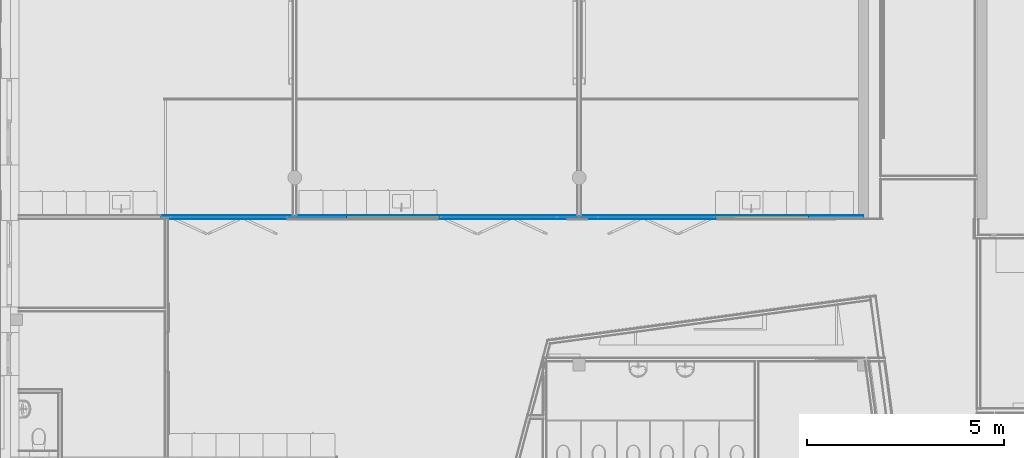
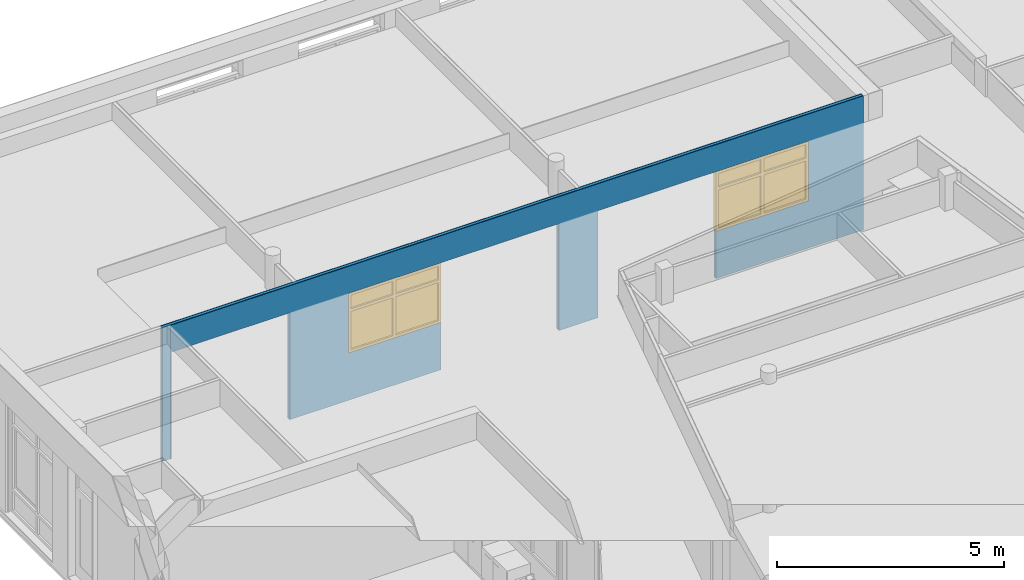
# One storey, part 36 of 167: 3 building element parts, 2 windows, 5 openings, 1 element without a shape of its own.
"""IFC2X3 building model written with IfcOpenShell, lengths in millimetres."""

from ifc_helpers import new_model, entity, si_unit, converted_unit, derived_unit, money_unit, direction, frame, origin_with_axes, place, context, subcontext, project, spatial, open_shell, faceted_brep, surface_model, source, transform, mapped, material, type_object, type_shapes, element, fill, aggregate, save


model = new_model("IFC2X3")

# Units and contexts
model_context = context("Model", 3, precision=0.01, world=origin_with_axes(), true_north=direction((0.0, 1.0)))
plan_context = context("Plan", 3, precision=0.01, world=origin_with_axes(), true_north=direction((0.0, 1.0)))
body_context = subcontext(model_context, "Body", "Model", "MODEL_VIEW")
ifc_project = project(units=[si_unit("LENGTHUNIT", "METRE", prefix="MILLI"), si_unit("AREAUNIT", "SQUARE_METRE"), si_unit("VOLUMEUNIT", "CUBIC_METRE"), converted_unit("PLANEANGLEUNIT", "DEGREE", entity("IfcPlaneAngleMeasure", 0.0174532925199), si_unit("PLANEANGLEUNIT", "RADIAN"), dimensions=[0, 0, 0, 0, 0, 0, 0]), si_unit("SOLIDANGLEUNIT", "STERADIAN"), money_unit("EUR"), converted_unit("TIMEUNIT", "Year", entity("IfcTimeMeasure", 31556926.0), si_unit("TIMEUNIT", "SECOND"), dimensions=[0, 0, 1, 0, 0, 0, 0]), si_unit("MASSUNIT", "GRAM", prefix="KILO"), si_unit("THERMODYNAMICTEMPERATUREUNIT", "DEGREE_CELSIUS"), si_unit("LUMINOUSINTENSITYUNIT", "LUMEN"), si_unit("ENERGYUNIT", "JOULE", prefix="MEGA"), derived_unit("THERMALCONDUCTANCEUNIT", [(si_unit("POWERUNIT", "WATT"), 1), (si_unit("LENGTHUNIT", "METRE"), -1), (si_unit("THERMODYNAMICTEMPERATUREUNIT", "KELVIN"), -1)]), derived_unit("SPECIFICHEATCAPACITYUNIT", [(si_unit("ENERGYUNIT", "JOULE"), 1), (si_unit("MASSUNIT", "GRAM", prefix="KILO"), -1), (si_unit("THERMODYNAMICTEMPERATUREUNIT", "KELVIN"), -1)]), derived_unit("MASSDENSITYUNIT", [(si_unit("MASSUNIT", "GRAM", prefix="KILO"), 1), (si_unit("VOLUMEUNIT", "CUBIC_METRE"), -1)])], contexts=[model_context, plan_context])

# Site, building, storey
site_placement = place(None, origin_with_axes())
site = spatial("IfcSite", under=ifc_project, at=site_placement, Name="Site", CompositionType="ELEMENT")
building_placement = place(site_placement, origin_with_axes())
building = spatial("IfcBuilding", under=site, at=building_placement, Name="Naam gebouw", CompositionType="ELEMENT")
storey_placement = place(building_placement, origin_with_axes())
storey = spatial("IfcBuildingStorey", under=building, at=storey_placement, Name="Begane grond", CompositionType="ELEMENT", Elevation=0.0)

# Window
window_style = type_object("IfcWindowStyle", Name="R2 bl ol 24", ConstructionType="NOTDEFINED", OperationType="USERDEFINED", ParameterTakesPrecedence=False, Sizeable=False)
wall_placement = place(storey_placement, frame((3950.0, 42200.0, -100.0), z_axis=(0.0, 0.0, 1.0), x_axis=(1.0, 0.0, 0.0)))
opening_2_placement = place(wall_placement, frame((15080.2814686, 0.0, 1300.0), z_axis=(0.0, 0.0, 1.0), x_axis=(1.0, 0.0, 0.0)))
window_1_placement = place(opening_2_placement, frame((1175.0, 0.0, 0.0), z_axis=(0.0, 0.0, 1.0), x_axis=(-1.0, 0.0, 0.0)))
window_1 = element("IfcWindow", 1, at=window_1_placement, inside=storey, type_object=window_style, Name="31_Raam_Hi-53", ObjectType="WINDOW", OverallHeight=1600.0, OverallWidth=2350.0, context=body_context, shape_type="SurfaceModel", body=[
    faceted_brep([(2283.0, -64.0, 1092.4), (2283.0, -64.0, 1167.4), (2283.0, 50.0, 1167.4), (2283.0, 50.0, 1092.4), (2283.0, -64.0, 67.0), (2350.0, -64.0, 67.0), (2350.0, -64.0, 1533.0), (2283.0, -64.0, 1533.0), (2283.0, 50.0, 1533.0), (2350.0, 50.0, 1533.0), (2350.0, 50.0, 67.0), (2283.0, 50.0, 67.0)], [[[0, 1, 2, 3]], [[0, 4, 5, 6, 7, 1]], [[1, 7, 8, 2]], [[3, 2, 8, 9, 10, 11]], [[4, 0, 3, 11]], [[5, 4, 11, 10]], [[6, 5, 10, 9]], [[7, 6, 9, 8]]]),
    faceted_brep([(67.0, -64.0, 67.0), (0.0, -64.0, 67.0), (0.0, 50.0, 67.0), (67.0, 50.0, 67.0), (67.0, -64.0, 1092.4), (67.0, -64.0, 1167.4), (67.0, -64.0, 1533.0), (0.0, -64.0, 1533.0), (0.0, 50.0, 1533.0), (67.0, 50.0, 1533.0), (67.0, 50.0, 1167.4), (67.0, 50.0, 1092.4)], [[[0, 1, 2, 3]], [[0, 4, 5, 6, 7, 1]], [[1, 7, 8, 2]], [[3, 2, 8, 9, 10, 11]], [[4, 0, 3, 11]], [[5, 4, 11, 10]], [[6, 5, 10, 9]], [[7, 6, 9, 8]]]),
    faceted_brep([(1212.5, -64.0, 1167.4), (1212.5, -64.0, 1092.4), (1212.5, 50.0, 1092.4), (1212.5, 50.0, 1167.4), (1212.5, -64.0, 1533.0), (1137.5, -64.0, 1533.0), (1137.5, -64.0, 1167.4), (1137.5, -64.0, 1092.4), (1137.5, -64.0, 67.0), (1212.5, -64.0, 67.0), (1212.5, 50.0, 67.0), (1137.5, 50.0, 67.0), (1137.5, 50.0, 1092.4), (1137.5, 50.0, 1167.4), (1137.5, 50.0, 1533.0), (1212.5, 50.0, 1533.0)], [[[0, 1, 2, 3]], [[0, 4, 5, 6, 7, 8, 9, 1]], [[1, 9, 10, 2]], [[3, 2, 10, 11, 12, 13, 14, 15]], [[4, 0, 3, 15]], [[5, 4, 15, 14]], [[6, 5, 14, 13]], [[7, 6, 13, 12]], [[8, 7, 12, 11]], [[9, 8, 11, 10]]]),
    faceted_brep([(67.0, -64.0, 1092.4), (67.0, -64.0, 1167.4), (67.0, 50.0, 1167.4), (67.0, 50.0, 1092.4), (1137.5, -64.0, 1092.4), (1137.5, -64.0, 1167.4), (1137.5, 50.0, 1167.4), (1137.5, 50.0, 1092.4)], [[[0, 1, 2, 3]], [[0, 4, 5, 1]], [[1, 5, 6, 2]], [[3, 2, 6, 7]], [[4, 0, 3, 7]], [[5, 4, 7, 6]]]),
    faceted_brep([(2283.0, -64.0, 1167.4), (2283.0, -64.0, 1092.4), (2283.0, 50.0, 1092.4), (2283.0, 50.0, 1167.4), (1212.5, -64.0, 1167.4), (1212.5, -64.0, 1092.4), (1212.5, 50.0, 1092.4), (1212.5, 50.0, 1167.4)], [[[0, 1, 2, 3]], [[0, 4, 5, 1]], [[1, 5, 6, 2]], [[3, 2, 6, 7]], [[4, 0, 3, 7]], [[5, 4, 7, 6]]]),
    faceted_brep([(2283.0, -64.0, 67.0), (2350.0, -64.0, 67.0), (2350.0, 50.0, 67.0), (2283.0, 50.0, 67.0), (1212.5, -64.0, 67.0), (1137.5, -64.0, 67.0), (67.0, -64.0, 67.0), (0.0, -64.0, 67.0), (0.0, -64.0, 0.0), (2350.0, -64.0, 0.0), (2350.0, 50.0, 0.0), (0.0, 50.0, 0.0), (0.0, 50.0, 67.0), (67.0, 50.0, 67.0), (1137.5, 50.0, 67.0), (1212.5, 50.0, 67.0)], [[[0, 1, 2, 3]], [[0, 4, 5, 6, 7, 8, 9, 1]], [[1, 9, 10, 2]], [[3, 2, 10, 11, 12, 13, 14, 15]], [[4, 0, 3, 15]], [[5, 4, 15, 14]], [[6, 5, 14, 13]], [[7, 6, 13, 12]], [[8, 7, 12, 11]], [[9, 8, 11, 10]]]),
    faceted_brep([(1212.5, -64.0, 1533.0), (1137.5, -64.0, 1533.0), (1137.5, 50.0, 1533.0), (1212.5, 50.0, 1533.0), (2283.0, -64.0, 1533.0), (2350.0, -64.0, 1533.0), (2350.0, -64.0, 1600.0), (0.0, -64.0, 1600.0), (0.0, -64.0, 1533.0), (67.0, -64.0, 1533.0), (67.0, 50.0, 1533.0), (0.0, 50.0, 1533.0), (0.0, 50.0, 1600.0), (2350.0, 50.0, 1600.0), (2350.0, 50.0, 1533.0), (2283.0, 50.0, 1533.0)], [[[0, 1, 2, 3]], [[0, 4, 5, 6, 7, 8, 9, 1]], [[1, 9, 10, 2]], [[3, 2, 10, 11, 12, 13, 14, 15]], [[4, 0, 3, 15]], [[5, 4, 15, 14]], [[6, 5, 14, 13]], [[7, 6, 13, 12]], [[8, 7, 12, 11]], [[9, 8, 11, 10]]]),
    surface_model("IfcShellBasedSurfaceModel", [(2283.0, -14.0, 1167.4), (2283.0, -14.0, 1533.0), (1212.5, -14.0, 1533.0), (1212.5, -14.0, 1167.4)], [open_shell([[[0, 1, 2, 3]]])]),
    surface_model("IfcShellBasedSurfaceModel", [(2283.0, 6.0, 1167.4), (1212.5, 6.0, 1167.4), (1212.5, 6.0, 1533.0), (2283.0, 6.0, 1533.0)], [open_shell([[[0, 1, 2, 3]]])]),
    surface_model("IfcShellBasedSurfaceModel", [(1137.5, -14.0, 1167.4), (1137.5, -14.0, 1533.0), (67.0, -14.0, 1533.0), (67.0, -14.0, 1167.4)], [open_shell([[[0, 1, 2, 3]]])]),
    surface_model("IfcShellBasedSurfaceModel", [(1137.5, 6.0, 1167.4), (67.0, 6.0, 1167.4), (67.0, 6.0, 1533.0), (1137.5, 6.0, 1533.0)], [open_shell([[[0, 1, 2, 3]]])]),
    surface_model("IfcShellBasedSurfaceModel", [(2283.0, -14.0, 67.0), (2283.0, -14.0, 1092.4), (1212.5, -14.0, 1092.4), (1212.5, -14.0, 67.0)], [open_shell([[[0, 1, 2, 3]]])]),
    surface_model("IfcShellBasedSurfaceModel", [(2283.0, 6.0, 67.0), (1212.5, 6.0, 67.0), (1212.5, 6.0, 1092.4), (2283.0, 6.0, 1092.4)], [open_shell([[[0, 1, 2, 3]]])]),
    surface_model("IfcShellBasedSurfaceModel", [(1137.5, -14.0, 67.0), (1137.5, -14.0, 1092.4), (67.0, -14.0, 1092.4), (67.0, -14.0, 67.0)], [open_shell([[[0, 1, 2, 3]]])]),
    surface_model("IfcShellBasedSurfaceModel", [(1137.5, 6.0, 67.0), (67.0, 6.0, 67.0), (67.0, 6.0, 1092.4), (1137.5, 6.0, 1092.4)], [open_shell([[[0, 1, 2, 3]]])]),
])

shared_shape = source(origin_with_axes(), body_context, "Body", "SurfaceModel", [
    faceted_brep([(-1108.0, -114.0, 1092.4), (-1108.0, 0.0, 1092.4), (-1108.0, 0.0, 1167.4), (-1108.0, -114.0, 1167.4), (-1108.0, -114.0, 67.0), (-1108.0, 0.0, 67.0), (-1175.0, 0.0, 67.0), (-1175.0, 0.0, 1533.0), (-1108.0, 0.0, 1533.0), (-1108.0, -114.0, 1533.0), (-1175.0, -114.0, 1533.0), (-1175.0, -114.0, 67.0)], [[[0, 1, 2, 3]], [[4, 5, 1, 0]], [[1, 5, 6, 7, 8, 2]], [[3, 2, 8, 9]], [[0, 3, 9, 10, 11, 4]], [[11, 6, 5, 4]], [[10, 7, 6, 11]], [[9, 8, 7, 10]]]),
    faceted_brep([(1108.0, -114.0, 67.0), (1108.0, 0.0, 67.0), (1175.0, 0.0, 67.0), (1175.0, -114.0, 67.0), (1108.0, -114.0, 1092.4), (1108.0, 0.0, 1092.4), (1108.0, 0.0, 1167.4), (1108.0, 0.0, 1533.0), (1175.0, 0.0, 1533.0), (1175.0, -114.0, 1533.0), (1108.0, -114.0, 1533.0), (1108.0, -114.0, 1167.4)], [[[0, 1, 2, 3]], [[4, 5, 1, 0]], [[1, 5, 6, 7, 8, 2]], [[3, 2, 8, 9]], [[0, 3, 9, 10, 11, 4]], [[11, 6, 5, 4]], [[10, 7, 6, 11]], [[9, 8, 7, 10]]]),
    faceted_brep([(-37.5, -114.0, 1167.4), (-37.5, 0.0, 1167.4), (-37.5, 0.0, 1092.4), (-37.5, -114.0, 1092.4), (-37.5, -114.0, 1533.0), (-37.5, 0.0, 1533.0), (37.5, 0.0, 1533.0), (37.5, 0.0, 1167.4), (37.5, 0.0, 1092.4), (37.5, 0.0, 67.0), (-37.5, 0.0, 67.0), (-37.5, -114.0, 67.0), (37.5, -114.0, 67.0), (37.5, -114.0, 1092.4), (37.5, -114.0, 1167.4), (37.5, -114.0, 1533.0)], [[[0, 1, 2, 3]], [[4, 5, 1, 0]], [[1, 5, 6, 7, 8, 9, 10, 2]], [[3, 2, 10, 11]], [[0, 3, 11, 12, 13, 14, 15, 4]], [[15, 6, 5, 4]], [[14, 7, 6, 15]], [[13, 8, 7, 14]], [[12, 9, 8, 13]], [[11, 10, 9, 12]]]),
    faceted_brep([(1108.0, -114.0, 1092.4), (1108.0, 0.0, 1092.4), (1108.0, 0.0, 1167.4), (1108.0, -114.0, 1167.4), (37.5, -114.0, 1092.4), (37.5, 0.0, 1092.4), (37.5, 0.0, 1167.4), (37.5, -114.0, 1167.4)], [[[0, 1, 2, 3]], [[4, 5, 1, 0]], [[1, 5, 6, 2]], [[3, 2, 6, 7]], [[0, 3, 7, 4]], [[7, 6, 5, 4]]]),
    faceted_brep([(-1108.0, -114.0, 1167.4), (-1108.0, 0.0, 1167.4), (-1108.0, 0.0, 1092.4), (-1108.0, -114.0, 1092.4), (-37.5, -114.0, 1167.4), (-37.5, 0.0, 1167.4), (-37.5, 0.0, 1092.4), (-37.5, -114.0, 1092.4)], [[[0, 1, 2, 3]], [[4, 5, 1, 0]], [[1, 5, 6, 2]], [[3, 2, 6, 7]], [[0, 3, 7, 4]], [[7, 6, 5, 4]]]),
    faceted_brep([(-1108.0, -114.0, 67.0), (-1108.0, 0.0, 67.0), (-1175.0, 0.0, 67.0), (-1175.0, -114.0, 67.0), (-37.5, -114.0, 67.0), (-37.5, 0.0, 67.0), (37.5, 0.0, 67.0), (1108.0, 0.0, 67.0), (1175.0, 0.0, 67.0), (1175.0, 0.0, 0.0), (-1175.0, 0.0, 0.0), (-1175.0, -114.0, 0.0), (1175.0, -114.0, 0.0), (1175.0, -114.0, 67.0), (1108.0, -114.0, 67.0), (37.5, -114.0, 67.0)], [[[0, 1, 2, 3]], [[4, 5, 1, 0]], [[1, 5, 6, 7, 8, 9, 10, 2]], [[3, 2, 10, 11]], [[0, 3, 11, 12, 13, 14, 15, 4]], [[15, 6, 5, 4]], [[14, 7, 6, 15]], [[13, 8, 7, 14]], [[12, 9, 8, 13]], [[11, 10, 9, 12]]]),
    faceted_brep([(-37.5, -114.0, 1533.0), (-37.5, 0.0, 1533.0), (37.5, 0.0, 1533.0), (37.5, -114.0, 1533.0), (-1108.0, -114.0, 1533.0), (-1108.0, 0.0, 1533.0), (-1175.0, 0.0, 1533.0), (-1175.0, 0.0, 1600.0), (1175.0, 0.0, 1600.0), (1175.0, 0.0, 1533.0), (1108.0, 0.0, 1533.0), (1108.0, -114.0, 1533.0), (1175.0, -114.0, 1533.0), (1175.0, -114.0, 1600.0), (-1175.0, -114.0, 1600.0), (-1175.0, -114.0, 1533.0)], [[[0, 1, 2, 3]], [[4, 5, 1, 0]], [[1, 5, 6, 7, 8, 9, 10, 2]], [[3, 2, 10, 11]], [[0, 3, 11, 12, 13, 14, 15, 4]], [[15, 6, 5, 4]], [[14, 7, 6, 15]], [[13, 8, 7, 14]], [[12, 9, 8, 13]], [[11, 10, 9, 12]]]),
    surface_model("IfcShellBasedSurfaceModel", [(-1108.0, -64.0, 1167.4), (-37.5, -64.0, 1167.4), (-37.5, -64.0, 1533.0), (-1108.0, -64.0, 1533.0)], [open_shell([[[0, 1, 2, 3]]])]),
    surface_model("IfcShellBasedSurfaceModel", [(-1108.0, -44.0, 1167.4), (-1108.0, -44.0, 1533.0), (-37.5, -44.0, 1533.0), (-37.5, -44.0, 1167.4)], [open_shell([[[0, 1, 2, 3]]])]),
    surface_model("IfcShellBasedSurfaceModel", [(37.5, -64.0, 1167.4), (1108.0, -64.0, 1167.4), (1108.0, -64.0, 1533.0), (37.5, -64.0, 1533.0)], [open_shell([[[0, 1, 2, 3]]])]),
    surface_model("IfcShellBasedSurfaceModel", [(37.5, -44.0, 1167.4), (37.5, -44.0, 1533.0), (1108.0, -44.0, 1533.0), (1108.0, -44.0, 1167.4)], [open_shell([[[0, 1, 2, 3]]])]),
    surface_model("IfcShellBasedSurfaceModel", [(-1108.0, -64.0, 67.0), (-37.5, -64.0, 67.0), (-37.5, -64.0, 1092.4), (-1108.0, -64.0, 1092.4)], [open_shell([[[0, 1, 2, 3]]])]),
    surface_model("IfcShellBasedSurfaceModel", [(-1108.0, -44.0, 67.0), (-1108.0, -44.0, 1092.4), (-37.5, -44.0, 1092.4), (-37.5, -44.0, 67.0)], [open_shell([[[0, 1, 2, 3]]])]),
    surface_model("IfcShellBasedSurfaceModel", [(37.5, -64.0, 67.0), (1108.0, -64.0, 67.0), (1108.0, -64.0, 1092.4), (37.5, -64.0, 1092.4)], [open_shell([[[0, 1, 2, 3]]])]),
    surface_model("IfcShellBasedSurfaceModel", [(37.5, -44.0, 67.0), (37.5, -44.0, 1092.4), (1108.0, -44.0, 1092.4), (1108.0, -44.0, 67.0)], [open_shell([[[0, 1, 2, 3]]])]),
])
type_shapes(window_style, [shared_shape])
opening_1_placement = place(wall_placement, frame((5740.0, 0.0, 1300.0), z_axis=(0.0, 0.0, 1.0), x_axis=(1.0, 0.0, 0.0)))
window_2_placement = place(opening_1_placement, frame((1175.0, 0.0, 0.0), z_axis=(0.0, 0.0, 1.0), x_axis=(-1.0, 0.0, 0.0)))
window_2 = element("IfcWindow", 2, at=window_2_placement, inside=storey, type_object=window_style, Name="31_Raam_Hi-53", ObjectType="WINDOW", OverallHeight=1600.0, OverallWidth=2350.0, context=body_context, shape_type="MappedRepresentation", body=[
    mapped(shared_shape, transform((1175.0, 50.0, 0.0))),
])

# Wall, opening
wall_type = type_object("IfcWallType", Name="_TenW_22_Metalstud 100 enkel gipsvezelplaat 100", PredefinedType="NOTDEFINED")
wall = element("IfcWall", 3, at=wall_placement, inside=storey, type_object=wall_type, Name="22_Wand_Wand-x")
opening_1 = element("IfcOpeningElement", 4, at=opening_1_placement, cuts=wall, Name="31_Raam_Hi-53", context=body_context, shape_type="Brep", body=[
    faceted_brep([(-1175.0, 100.0, 1600.0), (-1175.0, 100.0, 0.0), (-1175.0, -200.0, 0.0), (-1175.0, -200.0, 1600.0), (1175.0, 100.0, 1600.0), (1175.0, 100.0, 0.0), (1175.0, -200.0, 0.0), (1175.0, -200.0, 1600.0)], [[[0, 1, 2, 3]], [[0, 4, 5, 1]], [[1, 5, 6, 2]], [[3, 2, 6, 7]], [[4, 0, 3, 7]], [[5, 4, 7, 6]]]),
])

fill(opening_1, window_2)

# Opening
opening_2 = element("IfcOpeningElement", 5, at=opening_2_placement, cuts=wall, Name="31_Raam_Hi-53", context=body_context, shape_type="Brep", body=[
    faceted_brep([(1175.0, -200.0, 1600.0), (1175.0, -200.0, 0.0), (1175.0, 100.0, 0.0), (1175.0, 100.0, 1600.0), (-1175.0, -200.0, 1600.0), (-1175.0, -200.0, 0.0), (-1175.0, 100.0, 0.0), (-1175.0, 100.0, 1600.0)], [[[0, 1, 2, 3]], [[0, 4, 5, 1]], [[1, 5, 6, 2]], [[3, 2, 6, 7]], [[4, 0, 3, 7]], [[5, 4, 7, 6]]]),
])

fill(opening_2, window_1)

opening_3_placement = place(wall_placement, frame((8415.0, 0.0, 100.0), z_axis=(0.0, 0.0, 1.0), x_axis=(1.0, 0.0, 0.0)))
element("IfcOpeningElement", 6, at=opening_3_placement, cuts=wall, Name="32_Deur_Si-02", context=body_context, shape_type="Brep", body=[
    faceted_brep([(1500.0, -200.0, 2800.0), (1500.0, -200.0, 0.0), (1500.0, 100.0, 0.0), (1500.0, 100.0, 2800.0), (-1500.0, -200.0, 2800.0), (-1500.0, -200.0, 0.0), (-1500.0, 100.0, 0.0), (-1500.0, 100.0, 2800.0)], [[[0, 1, 2, 3]], [[0, 4, 5, 1]], [[1, 5, 6, 2]], [[3, 2, 6, 7]], [[4, 0, 3, 7]], [[5, 4, 7, 6]]]),
])

opening_4_placement = place(wall_placement, frame((12405.2814686, 0.0, 100.0), z_axis=(0.0, 0.0, 1.0), x_axis=(1.0, 0.0, 0.0)))
element("IfcOpeningElement", 7, at=opening_4_placement, cuts=wall, Name="32_Deur_Si-02s", context=body_context, shape_type="Brep", body=[
    faceted_brep([(-1500.0, 100.0, 2800.0), (-1500.0, 100.0, 0.0), (-1500.0, -200.0, 0.0), (-1500.0, -200.0, 2800.0), (1500.0, 100.0, 2800.0), (1500.0, 100.0, 0.0), (1500.0, -200.0, 0.0), (1500.0, -200.0, 2800.0)], [[[0, 1, 2, 3]], [[0, 4, 5, 1]], [[1, 5, 6, 2]], [[3, 2, 6, 7]], [[4, 0, 3, 7]], [[5, 4, 7, 6]]]),
])

opening_5_placement = place(wall_placement, frame((1575.0, 0.0, 100.0), z_axis=(0.0, 0.0, 1.0), x_axis=(1.0, 0.0, 0.0)))
element("IfcOpeningElement", 8, at=opening_5_placement, cuts=wall, Name="32_Deur_Si-01", context=body_context, shape_type="Brep", body=[
    faceted_brep([(1500.0, -200.0, 2800.0), (1500.0, -200.0, 0.0), (1500.0, 100.0, 0.0), (1500.0, 100.0, 2800.0), (-1500.0, -200.0, 2800.0), (-1500.0, -200.0, 0.0), (-1500.0, 100.0, 0.0), (-1500.0, 100.0, 2800.0)], [[[0, 1, 2, 3]], [[0, 4, 5, 1]], [[1, 5, 6, 2]], [[3, 2, 6, 7]], [[4, 0, 3, 7]], [[5, 4, 7, 6]]]),
])

# Building element part
ifc_material_1 = material(Name="Gipsplaat watervast")
building_element_part_1_placement = place(wall_placement, origin_with_axes())
building_element_part_1 = element("IfcBuildingElementPart", 9, at=building_element_part_1_placement, material=ifc_material_1, Name="Gipsplaat watervast", context=body_context, shape_type="Brep", body=[
    faceted_brep([(75.0, 50.0, 2900.0), (75.0, 50.0, 100.0), (75.0, 50.0, 30.0), (-150.0, 50.0, 30.0), (-150.0, 50.0, 3630.0), (3212.5, 50.0, 3630.0), (3212.5, 50.0, 30.0), (3075.0, 50.0, 30.0), (3075.0, 50.0, 100.0), (3075.0, 50.0, 2900.0), (75.0, 37.5, 2900.0), (75.0, 37.5, 100.0), (75.0, 37.5, 30.0), (-150.0, 37.5, 30.0), (-150.0, 37.5, 3630.0), (3212.5, 37.5, 3630.0), (3212.5, 37.5, 30.0), (3075.0, 37.5, 30.0), (3075.0, 37.5, 100.0), (3075.0, 37.5, 2900.0)], [[[0, 1, 2, 3, 4, 5, 6, 7, 8, 9]], [[1, 0, 10, 11]], [[1, 11, 12, 2]], [[12, 13, 3, 2]], [[13, 14, 4, 3]], [[4, 14, 15, 5]], [[6, 5, 15, 16]], [[7, 6, 16, 17]], [[18, 8, 7, 17]], [[9, 8, 18, 19]], [[0, 9, 19, 10]], [[19, 18, 17, 16, 15, 14, 13, 12, 11, 10]]]),
    faceted_brep([(10905.2814686, 50.0, 2900.0), (10905.2814686, 50.0, 100.0), (10905.2814686, 50.0, 30.0), (10487.5, 50.0, 30.0), (10487.5, 50.0, 3630.0), (17650.0, 50.0, 3630.0), (17650.0, 50.0, 30.0), (13905.2814686, 50.0, 30.0), (13905.2814686, 50.0, 100.0), (13905.2814686, 50.0, 1300.0), (16255.2814686, 50.0, 1300.0), (16255.2814686, 50.0, 2900.0), (13905.2814686, 50.0, 2900.0), (10905.2814686, 37.5, 2900.0), (10905.2814686, 37.5, 100.0), (10905.2814686, 37.5, 30.0), (10487.5, 37.5, 30.0), (10487.5, 37.5, 3630.0), (17650.0, 37.5, 3630.0), (17650.0, 37.5, 30.0), (13905.2814686, 37.5, 30.0), (13905.2814686, 37.5, 100.0), (13905.2814686, 37.5, 1300.0), (16255.2814686, 37.5, 1300.0), (16255.2814686, 37.5, 2900.0), (13905.2814686, 37.5, 2900.0)], [[[0, 1, 2, 3, 4, 5, 6, 7, 8, 9, 10, 11, 12]], [[1, 0, 13, 14]], [[1, 14, 15, 2]], [[16, 3, 2, 15]], [[17, 4, 3, 16]], [[18, 5, 4, 17]], [[5, 18, 19, 6]], [[6, 19, 20, 7]], [[21, 8, 7, 20]], [[22, 9, 8, 21]], [[9, 22, 23, 10]], [[10, 23, 24, 11]], [[25, 13, 0, 12, 11, 24]], [[13, 25, 24, 23, 22, 21, 20, 19, 18, 17, 16, 15, 14]]]),
    faceted_brep([(6915.0, 37.5, 1300.0), (6915.0, 50.0, 1300.0), (4565.0, 50.0, 1300.0), (4565.0, 37.5, 1300.0), (6915.0, 50.0, 100.0), (6915.0, 37.5, 100.0), (9915.0, 50.0, 2900.0), (6915.0, 50.0, 2900.0), (4565.0, 50.0, 2900.0), (6915.0, 50.0, 30.0), (3287.5, 50.0, 30.0), (3287.5, 50.0, 3630.0), (10412.5, 50.0, 3630.0), (10412.5, 50.0, 30.0), (9915.0, 50.0, 30.0), (9915.0, 50.0, 100.0), (4565.0, 37.5, 2900.0), (9915.0, 37.5, 2900.0), (9915.0, 37.5, 100.0), (9915.0, 37.5, 30.0), (10412.5, 37.5, 30.0), (10412.5, 37.5, 3630.0), (3287.5, 37.5, 3630.0), (3287.5, 37.5, 30.0), (6915.0, 37.5, 30.0), (6915.0, 37.5, 2900.0)], [[[0, 1, 2, 3]], [[4, 1, 0, 5]], [[6, 7, 8, 2, 1, 4, 9, 10, 11, 12, 13, 14, 15]], [[8, 16, 3, 2]], [[17, 18, 19, 20, 21, 22, 23, 24, 5, 0, 3, 16, 25]], [[4, 5, 24, 9]], [[7, 6, 17, 25, 16, 8]], [[23, 10, 9, 24]], [[22, 11, 10, 23]], [[21, 12, 11, 22]], [[12, 21, 20, 13]], [[13, 20, 19, 14]], [[18, 15, 14, 19]], [[6, 15, 18, 17]]]),
])

ifc_material_2 = material(Name="Isolatie - Steenwol zacht")
building_element_part_2_placement = place(wall_placement, origin_with_axes())
building_element_part_2 = element("IfcBuildingElementPart", 10, at=building_element_part_2_placement, material=ifc_material_2, Name="Isolatie - Steenwol zacht", context=body_context, shape_type="Brep", body=[
    faceted_brep([(75.0, 37.5, 2900.0), (75.0, 37.5, 100.0), (75.0, 37.5, 30.0), (-150.0, 37.5, 30.0), (-150.0, 37.5, 3630.0), (17650.0, 37.5, 3630.0), (17650.0, 37.5, 30.0), (13905.2814686, 37.5, 30.0), (13905.2814686, 37.5, 100.0), (13905.2814686, 37.5, 1300.0), (16255.2814686, 37.5, 1300.0), (16255.2814686, 37.5, 2900.0), (10905.2814686, 37.5, 2900.0), (10905.2814686, 37.5, 100.0), (10905.2814686, 37.5, 30.0), (9915.0, 37.5, 30.0), (9915.0, 37.5, 100.0), (9915.0, 37.5, 2900.0), (4565.0, 37.5, 2900.0), (4565.0, 37.5, 1300.0), (6915.0, 37.5, 1300.0), (6915.0, 37.5, 100.0), (6915.0, 37.5, 30.0), (3075.0, 37.5, 30.0), (3075.0, 37.5, 100.0), (3075.0, 37.5, 2900.0), (75.0, -37.5, 2900.0), (75.0, -37.5, 100.0), (75.0, -37.5, 30.0), (-150.0, -37.5, 30.0), (-150.0, -37.5, 3630.0), (17650.0, -37.5, 3630.0), (17650.0, -37.5, 30.0), (13905.2814686, -37.5, 30.0), (13905.2814686, -37.5, 100.0), (13905.2814686, -37.5, 1300.0), (16255.2814686, -37.5, 1300.0), (16255.2814686, -37.5, 2900.0), (10905.2814686, -37.5, 2900.0), (10905.2814686, -37.5, 100.0), (10905.2814686, -37.5, 30.0), (9915.0, -37.5, 30.0), (9915.0, -37.5, 100.0), (9915.0, -37.5, 2900.0), (4565.0, -37.5, 2900.0), (4565.0, -37.5, 1300.0), (6915.0, -37.5, 1300.0), (6915.0, -37.5, 100.0), (6915.0, -37.5, 30.0), (3075.0, -37.5, 30.0), (3075.0, -37.5, 100.0), (3075.0, -37.5, 2900.0)], [[[0, 1, 2, 3, 4, 5, 6, 7, 8, 9, 10, 11, 12, 13, 14, 15, 16, 17, 18, 19, 20, 21, 22, 23, 24, 25]], [[1, 0, 26, 27]], [[1, 27, 28, 2]], [[28, 29, 3, 2]], [[29, 30, 4, 3]], [[4, 30, 31, 5]], [[6, 5, 31, 32]], [[7, 6, 32, 33]], [[8, 7, 33, 34]], [[9, 8, 34, 35]], [[35, 36, 10, 9]], [[37, 11, 10, 36]], [[12, 11, 37, 38]], [[12, 38, 39, 13]], [[39, 40, 14, 13]], [[40, 41, 15, 14]], [[15, 41, 42, 16]], [[42, 43, 17, 16]], [[44, 18, 17, 43]], [[19, 18, 44, 45]], [[19, 45, 46, 20]], [[46, 47, 21, 20]], [[48, 22, 21, 47]], [[48, 49, 23, 22]], [[50, 24, 23, 49]], [[25, 24, 50, 51]], [[0, 25, 51, 26]], [[51, 50, 49, 48, 47, 46, 45, 44, 43, 42, 41, 40, 39, 38, 37, 36, 35, 34, 33, 32, 31, 30, 29, 28, 27, 26]]]),
])

building_element_part_3_placement = place(wall_placement, origin_with_axes())
building_element_part_3 = element("IfcBuildingElementPart", 11, at=building_element_part_3_placement, material=ifc_material_1, Name="Gipsplaat watervast", context=body_context, shape_type="Brep", body=[
    faceted_brep([(75.0, -37.5, 2900.0), (75.0, -37.5, 100.0), (75.0, -37.5, 30.0), (50.0, -37.5, 30.0), (50.0, -37.5, 3630.0), (17650.0, -37.5, 3630.0), (17650.0, -37.5, 30.0), (13905.2814686, -37.5, 30.0), (13905.2814686, -37.5, 100.0), (13905.2814686, -37.5, 1300.0), (16255.2814686, -37.5, 1300.0), (16255.2814686, -37.5, 2900.0), (10905.2814686, -37.5, 2900.0), (10905.2814686, -37.5, 100.0), (10905.2814686, -37.5, 30.0), (9915.0, -37.5, 30.0), (9915.0, -37.5, 100.0), (9915.0, -37.5, 2900.0), (4565.0, -37.5, 2900.0), (4565.0, -37.5, 1300.0), (6915.0, -37.5, 1300.0), (6915.0, -37.5, 100.0), (6915.0, -37.5, 30.0), (3075.0, -37.5, 30.0), (3075.0, -37.5, 100.0), (3075.0, -37.5, 2900.0), (75.0, -50.0, 2900.0), (75.0, -50.0, 100.0), (75.0, -50.0, 30.0), (50.0, -50.0, 30.0), (50.0, -50.0, 3630.0), (17650.0, -50.0, 3630.0), (17650.0, -50.0, 30.0), (13905.2814686, -50.0, 30.0), (13905.2814686, -50.0, 100.0), (13905.2814686, -50.0, 1300.0), (16255.2814686, -50.0, 1300.0), (16255.2814686, -50.0, 2900.0), (10905.2814686, -50.0, 2900.0), (10905.2814686, -50.0, 100.0), (10905.2814686, -50.0, 30.0), (9915.0, -50.0, 30.0), (9915.0, -50.0, 100.0), (9915.0, -50.0, 2900.0), (4565.0, -50.0, 2900.0), (4565.0, -50.0, 1300.0), (6915.0, -50.0, 1300.0), (6915.0, -50.0, 100.0), (6915.0, -50.0, 30.0), (3075.0, -50.0, 30.0), (3075.0, -50.0, 100.0), (3075.0, -50.0, 2900.0)], [[[0, 1, 2, 3, 4, 5, 6, 7, 8, 9, 10, 11, 12, 13, 14, 15, 16, 17, 18, 19, 20, 21, 22, 23, 24, 25]], [[1, 0, 26, 27]], [[1, 27, 28, 2]], [[28, 29, 3, 2]], [[29, 30, 4, 3]], [[4, 30, 31, 5]], [[6, 5, 31, 32]], [[7, 6, 32, 33]], [[8, 7, 33, 34]], [[9, 8, 34, 35]], [[35, 36, 10, 9]], [[37, 11, 10, 36]], [[12, 11, 37, 38]], [[12, 38, 39, 13]], [[39, 40, 14, 13]], [[40, 41, 15, 14]], [[15, 41, 42, 16]], [[42, 43, 17, 16]], [[44, 18, 17, 43]], [[19, 18, 44, 45]], [[19, 45, 46, 20]], [[46, 47, 21, 20]], [[48, 22, 21, 47]], [[48, 49, 23, 22]], [[50, 24, 23, 49]], [[25, 24, 50, 51]], [[0, 25, 51, 26]], [[51, 50, 49, 48, 47, 46, 45, 44, 43, 42, 41, 40, 39, 38, 37, 36, 35, 34, 33, 32, 31, 30, 29, 28, 27, 26]]]),
])

aggregate(wall, [building_element_part_1, building_element_part_2, building_element_part_3])

save(model, "model.ifc")
